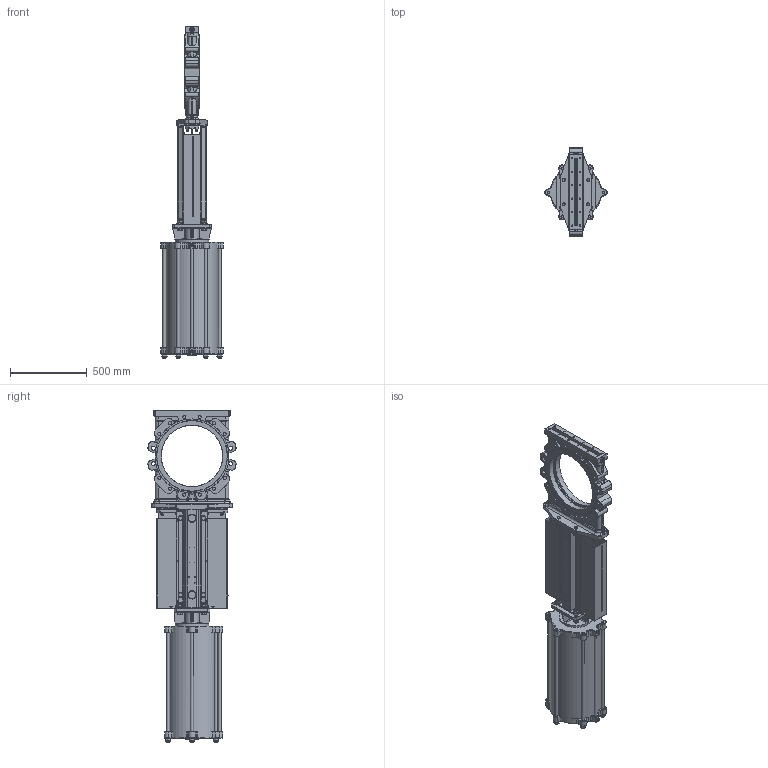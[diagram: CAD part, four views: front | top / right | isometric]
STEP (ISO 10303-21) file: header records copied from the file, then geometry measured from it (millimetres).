
FILE_DESCRIPTION(/* description */ (''),/* implementation_level */ '2;1');
FILE_NAME(/* name */ 'F:\Emir\3D-block special\SLV\SLV-DN400-PN10-FRSC320-500_Shrinkwrap_1.stp',/* time_stamp */ '2018-09-03T15:16:51+02:00',/* author */ ('emimus'),/* organization */ (''),/* preprocessor_version */ 'ST-DEVELOPER v17',/* originating_system */ 'Autodesk Inventor 2018',/* authorisation */ '');
FILE_SCHEMA (('CONFIG_CONTROL_DESIGN'));
Products named in the file (1): SLV DN 400-PN10-FRSC320-500_Shrinkwrap_1
Bounding box: 406 x 575.6 x 2168.5 mm (x, y, z)
Volume: 38550474.6 mm3; surface area: 7073216.2 mm2
Topology: 1 solids, 1 shells, 3322 faces, 8366 edges, 5283 vertices
Faces by surface type: plane 1242, cylinder 957, bspline 413, cone 301, torus 297, sphere 112
Full cylindrical faces by diameter (mm): 2.5 x8, 3.5 x4, 4 x24, 4.917 x19, 5 x8, 6 x1, 6.647 x4, 7 x12, 7.5 x4, 8 x12, 8.376 x4, 8.88 x1, 9.5 x2, 10.106 x2, 12 x18, 13 x8, 14 x7, 15 x9, 16 x6, 18 x1, 18.2 x4, 18.5 x2, 18.631 x2, 19 x8, 20 x20, 20.5 x2, 20.752 x24, 21 x10, 22 x6, 22.49 x4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
Entity records: 152221 total; most frequent: CARTESIAN_POINT 73678, DIRECTION 16582, ORIENTED_EDGE 16568, EDGE_CURVE 8284, AXIS2_PLACEMENT_3D 6796, VERTEX_POINT 5280, EDGE_LOOP 3798, CIRCLE 3742
